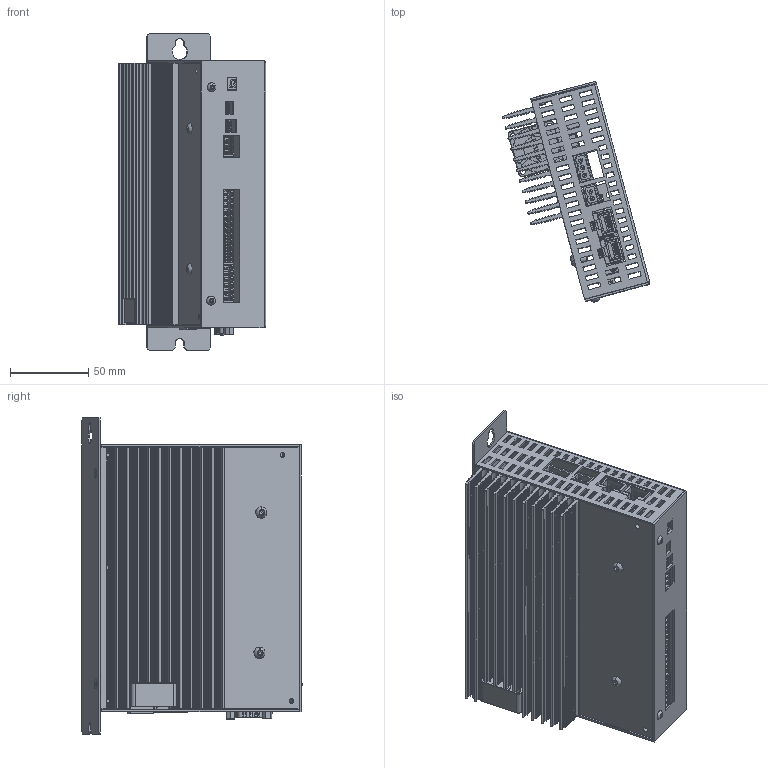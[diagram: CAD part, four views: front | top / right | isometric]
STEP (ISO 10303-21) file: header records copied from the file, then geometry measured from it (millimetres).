
FILE_DESCRIPTION(/* description */ (''),/* implementation_level */ '2;1');
FILE_NAME(/* name */ 'C:\Users\Jean-Yves\Documents\Inventor\SMD230\smd230-5a - version A\smd-5a_Shrinkwrap_2.stp',/* time_stamp */ '2020-05-15T09:04:21+02:00',/* author */ ('Jean-Yves'),/* organization */ (''),/* preprocessor_version */ 'ST-DEVELOPER v18',/* originating_system */ 'Autodesk Inventor 2020',/* authorisation */ '');
FILE_SCHEMA (('CONFIG_CONTROL_DESIGN'));
Products named in the file (1): smd-5a_Shrinkwrap_2
Bounding box: 94.1 x 140.58 x 202 mm (x, y, z)
Volume: 234931.6 mm3; surface area: 260747.5 mm2
Topology: 25 solids, 25 shells, 7660 faces, 20447 edges, 13180 vertices
Faces by surface type: plane 6117, cylinder 1084, cone 188, bspline 133, torus 93, sphere 45
Full cylindrical faces by diameter (mm): 0.434 x3, 0.457 x3, 0.8 x1, 1.12 x9, 1.2 x21, 1.25 x21, 1.36 x9, 1.4 x9, 1.5 x9, 1.6 x18, 1.72 x9, 2.25 x9, 2.459 x6, 2.5 x4, 2.8 x9, 3 x8, 3.1 x2, 3.2 x5, 3.5 x2, 3.7 x4, 4 x4, 4.2 x2, 6 x2
Entity records: 261884 total; most frequent: CARTESIAN_POINT 61765, ORIENTED_EDGE 40762, DIRECTION 38111, EDGE_CURVE 20381, LINE 16757, VECTOR 16757, VERTEX_POINT 13179, AXIS2_PLACEMENT_3D 10677
